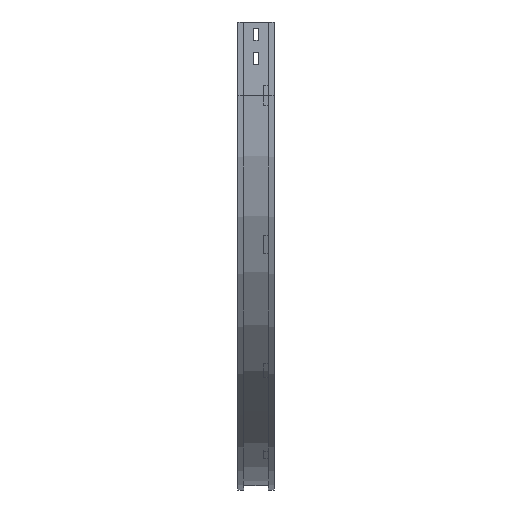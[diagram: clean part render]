
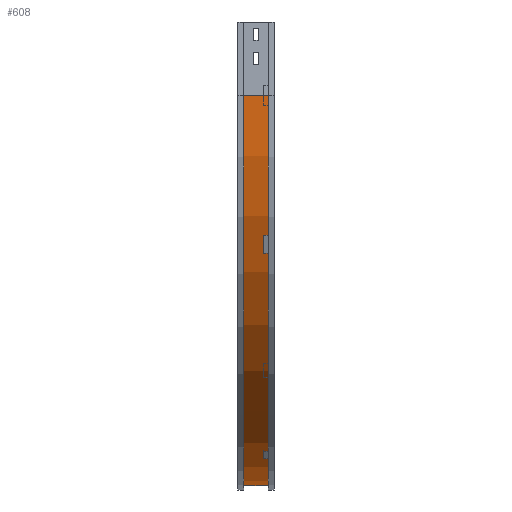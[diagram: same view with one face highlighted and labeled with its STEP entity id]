
A CAD part, left-side view. The second image highlights one B-rep face of the part: STEP entity #608.
In plain terms, the highlighted cylindrical face has radius 800 mm (diameter 1600 mm), a partial arc.
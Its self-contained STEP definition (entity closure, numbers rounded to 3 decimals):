
#40 = VECTOR ( 'NONE', #1463, 1000. ) ;
#77 = CARTESIAN_POINT ( 'NONE',  ( 9., 63., -150. ) ) ;
#150 = CARTESIAN_POINT ( 'NONE',  ( 9., 12., -150. ) ) ;
#220 = VERTEX_POINT ( 'NONE', #1920 ) ;
#257 = AXIS2_PLACEMENT_3D ( 'NONE', #2997, #573, #609 ) ;
#346 = DIRECTION ( 'NONE',  ( 0., -1., 0. ) ) ;
#535 = FACE_OUTER_BOUND ( 'NONE', #1333, .T. ) ;
#573 = DIRECTION ( 'NONE',  ( 0., -1., 0. ) ) ;
#608 = ADVANCED_FACE ( 'NONE', ( #535 ), #1337, .T. ) ;
#609 = DIRECTION ( 'NONE',  ( 0., 0., -1. ) ) ;
#659 = ORIENTED_EDGE ( 'NONE', *, *, #1027, .T. ) ;
#661 = CARTESIAN_POINT ( 'NONE',  ( 809., 12., -950. ) ) ;
#682 = DIRECTION ( 'NONE',  ( 0., -1., 0. ) ) ;
#754 = VERTEX_POINT ( 'NONE', #150 ) ;
#957 = CIRCLE ( 'NONE', #2752, 800. ) ;
#962 = LINE ( 'NONE', #661, #2309 ) ;
#1027 = EDGE_CURVE ( 'NONE', #220, #2182, #962, .T. ) ;
#1143 = DIRECTION ( 'NONE',  ( -1., 0., 0. ) ) ;
#1147 = AXIS2_PLACEMENT_3D ( 'NONE', #2303, #2837, #3133 ) ;
#1333 = EDGE_LOOP ( 'NONE', ( #1715, #3052, #1781, #659 ) ) ;
#1337 = CYLINDRICAL_SURFACE ( 'NONE', #257, 800. ) ;
#1463 = DIRECTION ( 'NONE',  ( 0., -1., 0. ) ) ;
#1537 = CIRCLE ( 'NONE', #1147, 800. ) ;
#1635 = CARTESIAN_POINT ( 'NONE',  ( 809., 12., -950. ) ) ;
#1715 = ORIENTED_EDGE ( 'NONE', *, *, #2415, .F. ) ;
#1781 = ORIENTED_EDGE ( 'NONE', *, *, #2168, .T. ) ;
#1920 = CARTESIAN_POINT ( 'NONE',  ( 809., 63., -950. ) ) ;
#2126 = VERTEX_POINT ( 'NONE', #77 ) ;
#2153 = CARTESIAN_POINT ( 'NONE',  ( 809., 63., -150. ) ) ;
#2168 = EDGE_CURVE ( 'NONE', #2126, #220, #957, .T. ) ;
#2182 = VERTEX_POINT ( 'NONE', #1635 ) ;
#2303 = CARTESIAN_POINT ( 'NONE',  ( 809., 12., -150. ) ) ;
#2309 = VECTOR ( 'NONE', #682, 1000. ) ;
#2415 = EDGE_CURVE ( 'NONE', #754, #2182, #1537, .T. ) ;
#2555 = LINE ( 'NONE', #3306, #40 ) ;
#2752 = AXIS2_PLACEMENT_3D ( 'NONE', #2153, #346, #1143 ) ;
#2837 = DIRECTION ( 'NONE',  ( 0., -1., 0. ) ) ;
#2997 = CARTESIAN_POINT ( 'NONE',  ( 809., 0., -150. ) ) ;
#3052 = ORIENTED_EDGE ( 'NONE', *, *, #3431, .F. ) ;
#3133 = DIRECTION ( 'NONE',  ( -1., 0., 0. ) ) ;
#3306 = CARTESIAN_POINT ( 'NONE',  ( 9., 12., -150. ) ) ;
#3431 = EDGE_CURVE ( 'NONE', #2126, #754, #2555, .T. ) ;
